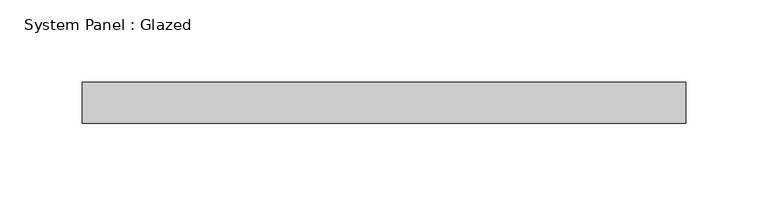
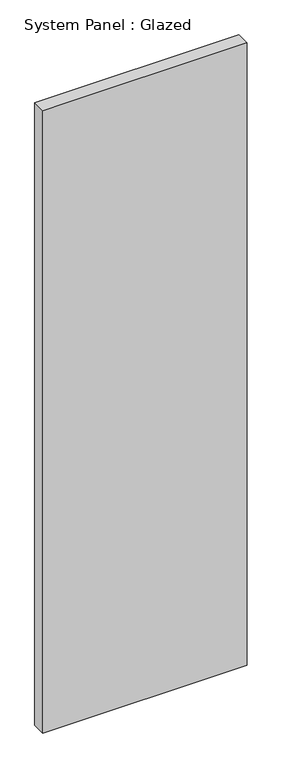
"""IFC4 building model written with IfcOpenShell, lengths in millimetres: plate geometry, System Panel : Glazed."""

import ifcopenshell
import ifcopenshell.guid

model = None  # the IFC model being written
_history = None  # IfcOwnerHistory: only IFC2X3 demands one
_inside = {}  # id of a spatial element -> (the spatial element, [elements in it])
_under = {}  # id of a project, library or spatial element -> (it, [spatial elements below it])
_declared = {}  # id of a project -> (the project, [libraries it declares])
_typed = {}  # id of a type object -> (the type object, [elements of that type])
_made_of = {}  # id of a material, layer set ... -> (it, [elements and type objects made of it])


def new_model(schema):
    """Start an empty IFC model of exactly this schema.

    Asked for "IFC4X3", IfcOpenShell would pick the latest addendum, in which some entities
    have other attributes; the version numbers below select the first issue.
    IFC2X3 requires an IfcOwnerHistory on every rooted entity: one is made here for all.
    """
    global model, _history
    if schema == "IFC4X3":
        model = ifcopenshell.file(schema_version=(4, 3, 0, 0))
    else:
        model = ifcopenshell.file(schema=schema)
    _inside.clear()
    _under.clear()
    _declared.clear()
    _typed.clear()
    _made_of.clear()
    _history = None
    if model.schema == "IFC2X3":
        org = make("IfcOrganization", Name="unknown")
        user = make(
            "IfcPersonAndOrganization",
            ThePerson=make("IfcPerson", FamilyName="unknown"),
            TheOrganization=org,
        )
        app = make(
            "IfcApplication",
            ApplicationDeveloper=org,
            Version="unknown",
            ApplicationFullName="unknown",
            ApplicationIdentifier="unknown",
        )
        _history = make(
            "IfcOwnerHistory",
            OwningUser=user,
            OwningApplication=app,
            ChangeAction="ADDED",
            CreationDate=0,
        )
    return model


def make(cls, **values):
    """One entity of the class cls with the attributes given. An attribute that is None is left unset."""
    return model.create_entity(
        cls, **{name: value for name, value in values.items() if value is not None}
    )


def rooted(cls, **values):
    """An entity with a GlobalId (a new one), such as an element, a storey or a relation."""
    return make(cls, GlobalId=ifcopenshell.guid.new(), OwnerHistory=_history, **values)


def si_unit(unit_type, name, prefix=None):
    """IfcSIUnit, for example si_unit("LENGTHUNIT", "METRE", prefix="MILLI")."""
    return make("IfcSIUnit", UnitType=unit_type, Prefix=prefix, Name=name)


def assignment(units):
    """IfcUnitAssignment: the units of a project."""
    return None if units is None else make("IfcUnitAssignment", Units=units)


def point(xyz):
    """IfcCartesianPoint."""
    return None if xyz is None else make("IfcCartesianPoint", Coordinates=xyz)


def direction(xyz):
    """IfcDirection."""
    return None if xyz is None else make("IfcDirection", DirectionRatios=xyz)


def frame(location, z_axis=None, x_axis=None):
    """IfcAxis2Placement3D, a coordinate frame: its origin and axes. An axis left out is left unset."""
    return make(
        "IfcAxis2Placement3D",
        Location=point(location),
        Axis=direction(z_axis),
        RefDirection=direction(x_axis),
    )


def origin():
    """The frame at (0, 0, 0) with its axes left unset."""
    return frame((0.0, 0.0, 0.0))


def origin_with_axes():
    """The frame at (0, 0, 0) with the z axis (0, 0, 1) and the x axis (1, 0, 0) written out."""
    return frame((0.0, 0.0, 0.0), z_axis=(0.0, 0.0, 1.0), x_axis=(1.0, 0.0, 0.0))


def place(relative_to, where):
    """IfcLocalPlacement: puts the frame where relative to a parent placement (None: the world)."""
    return make(
        "IfcLocalPlacement", PlacementRelTo=relative_to, RelativePlacement=where
    )


def context(
    kind, dimensions, precision=None, world=None, true_north=None, identifier=None
):
    """IfcGeometricRepresentationContext, for example the 3D "Model" context."""
    return make(
        "IfcGeometricRepresentationContext",
        ContextIdentifier=identifier,
        ContextType=kind,
        CoordinateSpaceDimension=dimensions,
        Precision=precision,
        WorldCoordinateSystem=world,
        TrueNorth=true_north,
    )


def project(units=None, contexts=None):
    """IfcProject with its units and contexts."""
    return rooted(
        "IfcProject",
        Name="project",
        RepresentationContexts=contexts,
        UnitsInContext=assignment(units),
    )


def spatial(cls, under=None, at=None, **own):
    """A site, building, storey or space (cls), placed at a placement, below another one or the project."""
    s = rooted(cls, ObjectPlacement=at, **own)
    if under is not None:
        _under.setdefault(under.id(), (under, []))[1].append(s)
    return s


def polyline(points):
    """IfcPolyline through the points."""
    return make("IfcPolyline", Points=[point(p) for p in points])


def outline(outer, holes=None, kind="AREA"):
    """IfcArbitraryClosedProfileDef: a profile drawn as a closed curve; with holes, ...WithVoids."""
    if holes is None:
        return make("IfcArbitraryClosedProfileDef", ProfileType=kind, OuterCurve=outer)
    return make(
        "IfcArbitraryProfileDefWithVoids",
        ProfileType=kind,
        OuterCurve=outer,
        InnerCurves=holes,
    )


def extrude(swept, where, along, depth):
    """IfcExtrudedAreaSolid: the profile swept, set in the frame where, extruded along a direction by depth."""
    return make(
        "IfcExtrudedAreaSolid",
        SweptArea=swept,
        Position=where,
        ExtrudedDirection=direction(along),
        Depth=depth,
    )


def shape(context_of_items, identifier, shape_type, items):
    """IfcShapeRepresentation: the items that make up one representation, for example the "Body"."""
    return make(
        "IfcShapeRepresentation",
        ContextOfItems=context_of_items,
        RepresentationIdentifier=identifier,
        RepresentationType=shape_type,
        Items=items,
    )


def source(mapping_origin, context_of_items, identifier, shape_type, items):
    """IfcRepresentationMap: a shape defined once, which mapped items show again and again."""
    return make(
        "IfcRepresentationMap",
        MappingOrigin=mapping_origin,
        MappedRepresentation=shape(context_of_items, identifier, shape_type, items),
    )


def transform(
    local_origin,
    x_axis=None,
    y_axis=None,
    z_axis=None,
    scale=None,
    scale2=None,
    scale3=None,
    uniform=True,
):
    """IfcCartesianTransformationOperator3D, or its non-uniform kind. x_axis, y_axis, z_axis: its Axis1, 2, 3."""
    if uniform:
        return make(
            "IfcCartesianTransformationOperator3D",
            Axis1=direction(x_axis),
            Axis2=direction(y_axis),
            LocalOrigin=point(local_origin),
            Scale=scale,
            Axis3=direction(z_axis),
        )
    return make(
        "IfcCartesianTransformationOperator3DnonUniform",
        Axis1=direction(x_axis),
        Axis2=direction(y_axis),
        LocalOrigin=point(local_origin),
        Scale=scale,
        Axis3=direction(z_axis),
        Scale2=scale2,
        Scale3=scale3,
    )


def mapped(mapping_source, mapping_target):
    """IfcMappedItem: shows the shape of a source again, moved by a transform."""
    return make(
        "IfcMappedItem", MappingSource=mapping_source, MappingTarget=mapping_target
    )


def made_of(thing, what):
    """Note that an element or type object is made of a material, layer set ...; save() writes the relation."""
    if what is not None:
        _made_of.setdefault(what.id(), (what, []))[1].append(thing)
    return thing


def element(
    cls,
    number,
    at=None,
    inside=None,
    cuts=None,
    type_object=None,
    material=None,
    context=None,
    identifier="Body",
    shape_type=None,
    held_by="IfcProductDefinitionShape",
    body=None,
    shapes=None,
    **own,
):
    """One element of the class cls, such as IfcWall. Its Tag is "e" and its number.

    at: its placement. inside: the storey or other place that contains it. cuts: it is an
    opening in that element (IfcRelVoidsElement). A single representation is given by context,
    identifier, shape_type and body (its items); several are given by shapes. held_by: the class
    of the entity that holds the representations. save() writes the other relations.
    """
    e = rooted(cls, Tag="e%d" % number, ObjectPlacement=at, **own)
    if body is not None:
        shapes = [shape(context, identifier, shape_type, body)]
    if shapes is not None:
        e.Representation = make(held_by, Representations=shapes)
    if inside is not None:
        _inside.setdefault(inside.id(), (inside, []))[1].append(e)
    if cuts is not None:
        rooted(
            "IfcRelVoidsElement", RelatingBuildingElement=cuts, RelatedOpeningElement=e
        )
    if type_object is not None:
        _typed.setdefault(type_object.id(), (type_object, []))[1].append(e)
    return made_of(e, material)


def aggregate(whole, parts):
    """IfcRelAggregates: a whole, such as a stair, and the parts it consists of."""
    return rooted("IfcRelAggregates", RelatingObject=whole, RelatedObjects=parts)


def save(model, path):
    """Write the relations noted so far, then the file.

    IfcRelAggregates (storeys below a building ...), IfcRelContainedInSpatialStructure (elements
    in a storey), IfcRelDefinesByType, IfcRelAssociatesMaterial and IfcRelDeclares: one each for
    every whole, place, type object, material and project.
    """
    for whole, parts in _under.values():
        aggregate(whole, parts)
    for where, things in _inside.values():
        rooted(
            "IfcRelContainedInSpatialStructure",
            RelatedElements=things,
            RelatingStructure=where,
        )
    for kind, things in _typed.values():
        rooted("IfcRelDefinesByType", RelatedObjects=things, RelatingType=kind)
    for what, things in _made_of.values():
        rooted("IfcRelAssociatesMaterial", RelatedObjects=things, RelatingMaterial=what)
    for by, libraries in _declared.values():
        rooted("IfcRelDeclares", RelatingContext=by, RelatedDefinitions=libraries)
    model.write(path)


def system_panel_glazed_829cf6d2(model_context):
    return source(origin(), model_context, "Body", "SweptSolid", [
        extrude(outline(polyline([(183.5786901, -12.5), (-183.5786901, -12.5), (-183.5786901, 12.5), (183.5786901, 12.5), (183.5786901, -12.5)])), origin_with_axes(), (0.0, 0.0, 1.0), 1183.3894108),
    ])


if __name__ == "__main__":
    model = new_model("IFC4")
    model_context = context("Model", 3, world=origin())
    ifc_project = project(units=[si_unit("LENGTHUNIT", "METRE", prefix="MILLI")], contexts=[model_context])
    site = spatial("IfcSite", under=ifc_project)
    building = spatial("IfcBuilding", under=site)
    placement = place(None, origin())
    system_panel_glazed_shape = system_panel_glazed_829cf6d2(model_context)
    element("IfcPlate", 1, ObjectType="System Panel : Glazed", at=placement, inside=building, context=model_context, shape_type="MappedRepresentation", body=[
        mapped(system_panel_glazed_shape, transform((0.0, 0.0, 0.0), x_axis=(1.0, 0.0, 0.0), y_axis=(0.0, 1.0, 0.0), z_axis=(0.0, 0.0, 1.0))),
    ])
    save(model, "model.ifc")
